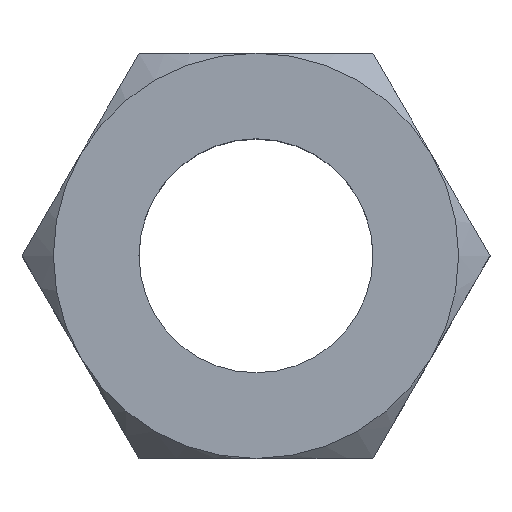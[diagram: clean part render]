
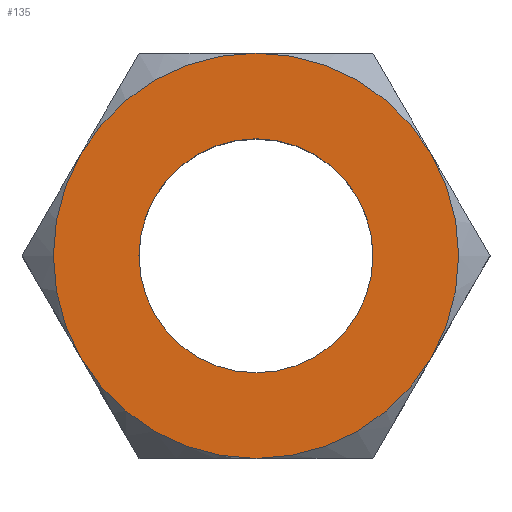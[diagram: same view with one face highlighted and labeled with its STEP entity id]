
A CAD part, top view. The second image highlights one B-rep face of the part: STEP entity #135.
In plain terms, the highlighted planar face has unit normal (0, 0, 1).
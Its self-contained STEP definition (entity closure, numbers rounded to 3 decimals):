
#111=FACE_BOUND('',#185,.T.);
#121=CIRCLE('',#410,10.);
#122=CIRCLE('',#411,17.321);
#123=CIRCLE('',#412,17.321);
#124=CIRCLE('',#413,17.321);
#125=CIRCLE('',#414,17.321);
#126=CIRCLE('',#415,17.321);
#127=CIRCLE('',#416,17.321);
#135=ADVANCED_FACE('',(#111,#164),#156,.T.);
#156=PLANE('',#417);
#164=FACE_OUTER_BOUND('',#186,.T.);
#185=EDGE_LOOP('',(#268));
#186=EDGE_LOOP('',(#269,#270,#271,#272,#273,#274));
#268=ORIENTED_EDGE('',*,*,#376,.F.);
#269=ORIENTED_EDGE('',*,*,#377,.T.);
#270=ORIENTED_EDGE('',*,*,#378,.T.);
#271=ORIENTED_EDGE('',*,*,#379,.T.);
#272=ORIENTED_EDGE('',*,*,#380,.T.);
#273=ORIENTED_EDGE('',*,*,#381,.T.);
#274=ORIENTED_EDGE('',*,*,#382,.T.);
#318=VERTEX_POINT('',#529);
#322=VERTEX_POINT('',#553);
#326=VERTEX_POINT('',#579);
#330=VERTEX_POINT('',#603);
#334=VERTEX_POINT('',#627);
#336=VERTEX_POINT('',#650);
#338=VERTEX_POINT('',#668);
#376=EDGE_CURVE('',#338,#338,#121,.T.);
#377=EDGE_CURVE('',#334,#336,#122,.T.);
#378=EDGE_CURVE('',#336,#318,#123,.T.);
#379=EDGE_CURVE('',#318,#322,#124,.T.);
#380=EDGE_CURVE('',#322,#326,#125,.T.);
#381=EDGE_CURVE('',#326,#330,#126,.T.);
#382=EDGE_CURVE('',#330,#334,#127,.T.);
#410=AXIS2_PLACEMENT_3D('',#667,#467,#468);
#411=AXIS2_PLACEMENT_3D('',#669,#469,#470);
#412=AXIS2_PLACEMENT_3D('',#670,#471,#472);
#413=AXIS2_PLACEMENT_3D('',#671,#473,#474);
#414=AXIS2_PLACEMENT_3D('',#672,#475,#476);
#415=AXIS2_PLACEMENT_3D('',#673,#477,#478);
#416=AXIS2_PLACEMENT_3D('',#674,#479,#480);
#417=AXIS2_PLACEMENT_3D('',#675,#481,#482);
#467=DIRECTION('',(0.,0.,1.));
#468=DIRECTION('',(0.5,0.866,0.));
#469=DIRECTION('',(0.,0.,1.));
#470=DIRECTION('',(-1.,0.,0.));
#471=DIRECTION('',(0.,0.,1.));
#472=DIRECTION('',(-1.,0.,0.));
#473=DIRECTION('',(0.,0.,1.));
#474=DIRECTION('',(-1.,0.,0.));
#475=DIRECTION('',(0.,0.,1.));
#476=DIRECTION('',(-1.,0.,0.));
#477=DIRECTION('',(0.,0.,1.));
#478=DIRECTION('',(-1.,0.,0.));
#479=DIRECTION('',(0.,0.,1.));
#480=DIRECTION('',(-1.,0.,0.));
#481=DIRECTION('',(0.,0.,1.));
#482=DIRECTION('',(1.,0.,0.));
#529=CARTESIAN_POINT('',(0.,17.321,20.));
#553=CARTESIAN_POINT('',(-15.,8.66,20.));
#579=CARTESIAN_POINT('',(-15.,-8.66,20.));
#603=CARTESIAN_POINT('',(0.,-17.321,20.));
#627=CARTESIAN_POINT('',(15.,-8.66,20.));
#650=CARTESIAN_POINT('',(15.,8.66,20.));
#667=CARTESIAN_POINT('',(0.,0.,20.));
#668=CARTESIAN_POINT('',(5.,8.66,20.));
#669=CARTESIAN_POINT('',(0.,0.,20.));
#670=CARTESIAN_POINT('',(0.,0.,20.));
#671=CARTESIAN_POINT('',(0.,0.,20.));
#672=CARTESIAN_POINT('',(0.,0.,20.));
#673=CARTESIAN_POINT('',(0.,0.,20.));
#674=CARTESIAN_POINT('',(0.,0.,20.));
#675=CARTESIAN_POINT('',(-30.,17.321,20.));
